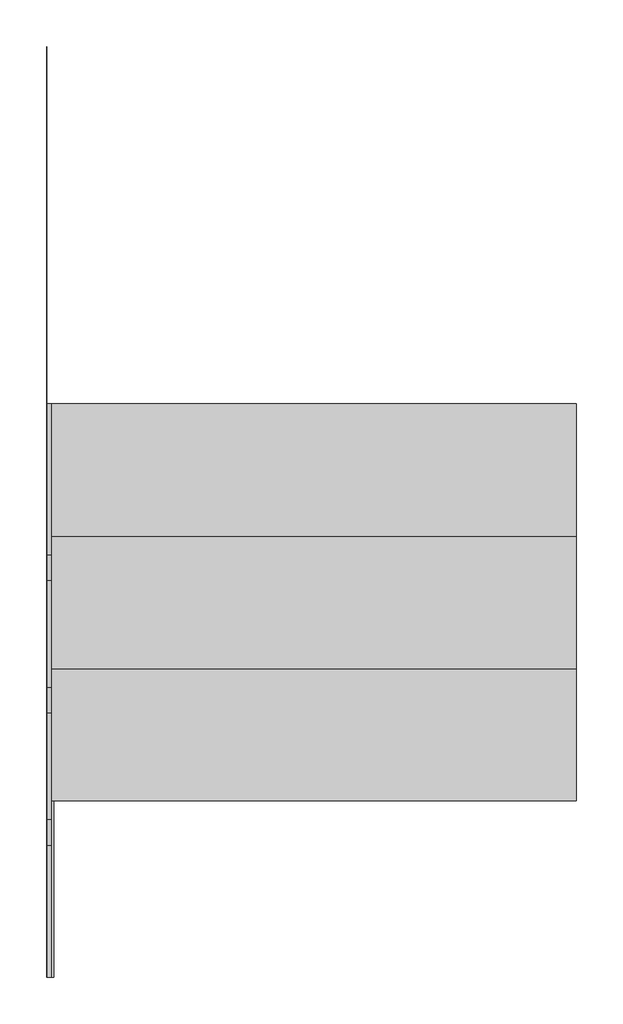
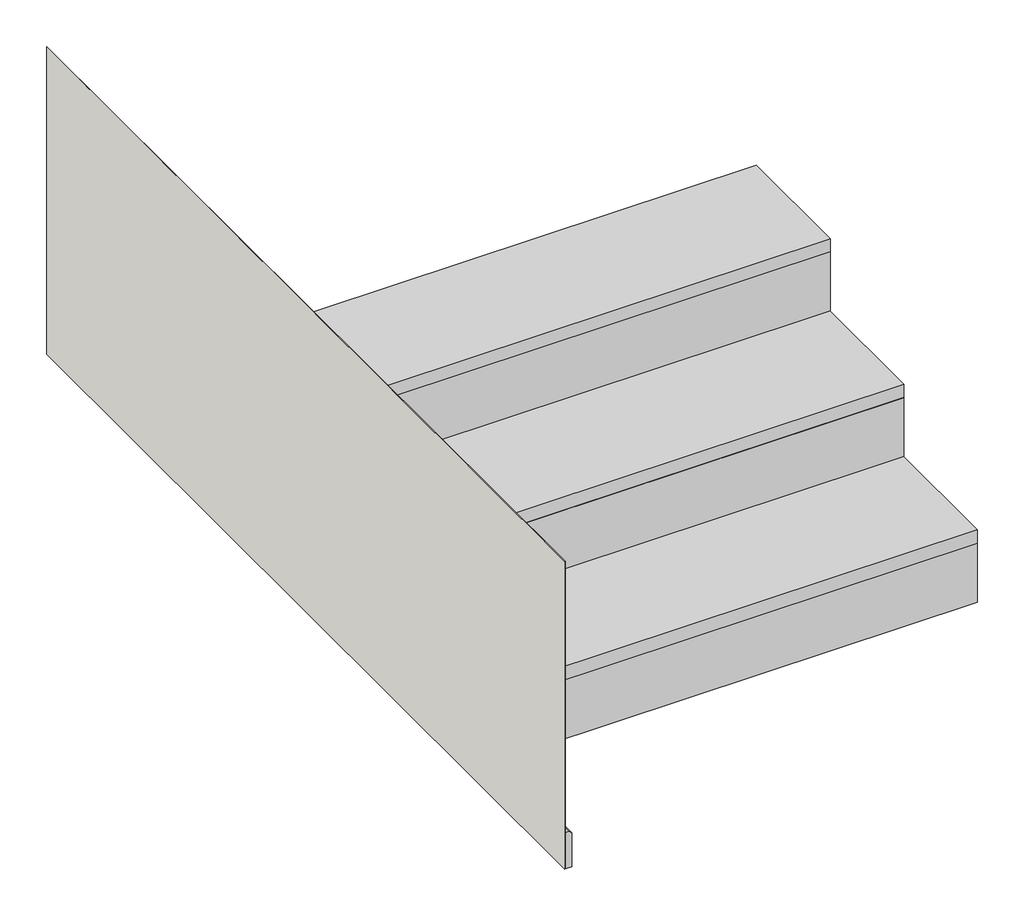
# One storey: 4 proxies, 1 stair flight, 1 wall.
"""IFC4 building model written with IfcOpenShell, lengths in millimetres."""

from ifc_helpers import new_model, si_unit, frame, origin, place, context, project, spatial, polyline, outline, extrude, faceted_brep, transform, mapped, element, save
from components import generic_models_5bab8272

model = new_model("IFC4")

# Units and contexts
model_context = context("Model", 3, world=origin())
ifc_project = project(units=[si_unit("LENGTHUNIT", "METRE", prefix="MILLI")], contexts=[model_context])

# Site, building, storey
site = spatial("IfcSite", under=ifc_project)
building = spatial("IfcBuilding", under=site)
storey = spatial("IfcBuildingStorey", under=building, Name="- EXAGRES_Catalogo ESCALERAS", Elevation=10000.0)

# Proxies
placement = place(None, origin())
element("IfcBuildingElementProxy", 1, Name="Exagres_Milan_Arena_Rodapie_9x60", ObjectType="Exagres_Milan_Arena_Rodapie_9x60", at=placement, inside=storey, context=model_context, shape_type="SweptSolid", body=[
    extrude(outline(polyline([(10090.0, -451.9029047), (10000.0, -451.9029047), (10000.0, -436.9029047), (10085.0, -436.9029047), (10090.0, -441.9029047), (10090.0, -451.9029047)])), frame((0.0, -15678.6587674, 0.0), z_axis=(0.0, 1.0, 0.0), x_axis=(0.0, 0.0, 1.0)), (0.0, 0.0, 1.0), 400.0),
])
generic_models_shape = generic_models_5bab8272(model_context)
element("IfcBuildingElementProxy", 2, Name="Zanquin Recto 42.3x17.5 : Exagres_Milan_Arena_Zanquin_Rect_Izq", ObjectType="Zanquin Recto 42.3x17.5 : Exagres_Milan_Arena_Zanquin_Rect_Izq", at=placement, inside=storey, context=model_context, shape_type="MappedRepresentation", body=[
    mapped(generic_models_shape, transform((-451.9029047, -15278.6587674, 10180.0), x_axis=(0.0, 1.0, 0.0), y_axis=(0.0, 0.0, 1.0), z_axis=(1.0, 0.0, 0.0))),
])
element("IfcBuildingElementProxy", 3, Name="Zanquin Recto 42.3x17.5 : Exagres_Milan_Arena_Zanquin_Rect_Izq", ObjectType="Zanquin Recto 42.3x17.5 : Exagres_Milan_Arena_Zanquin_Rect_Izq", at=placement, inside=storey, context=model_context, shape_type="MappedRepresentation", body=[
    mapped(generic_models_shape, transform((-451.9029047, -14978.6587674, 10360.0), x_axis=(0.0, 1.0, 0.0), y_axis=(0.0, 0.0, 1.0), z_axis=(1.0, 0.0, 0.0))),
])
element("IfcBuildingElementProxy", 4, Name="Zanquin Recto 42.3x17.5 : Exagres_Milan_Arena_Zanquin_Rect_Izq", ObjectType="Zanquin Recto 42.3x17.5 : Exagres_Milan_Arena_Zanquin_Rect_Izq", at=placement, inside=storey, context=model_context, shape_type="MappedRepresentation", body=[
    mapped(generic_models_shape, transform((-451.9029047, -14678.6587674, 10540.0), x_axis=(0.0, 1.0, 0.0), y_axis=(0.0, 0.0, 1.0), z_axis=(1.0, 0.0, 0.0))),
])

# Stair flight
element("IfcStairFlight", 5, ObjectType="EXAGRES_Recto - Milán Arena C3", at=placement, inside=storey, context=model_context, shape_type="SolidModel", body=[
    faceted_brep([(-451.9029047, -14963.6587674, 10165.0), (-451.9029047, -15263.6587674, 10165.0), (748.0970953, -15263.6587674, 10165.0), (748.0970953, -14963.6587674, 10165.0), (-451.9029047, -14963.6587674, 10000.0), (-451.9029047, -15263.6587674, 10000.0), (748.0970953, -15263.6587674, 10000.0), (748.0970953, -14963.6587674, 10000.0), (-451.9029047, -14663.6587674, 10345.0), (-451.9029047, -14963.6587674, 10345.0), (748.0970953, -14963.6587674, 10345.0), (748.0970953, -14663.6587674, 10345.0), (-451.9029047, -14663.6587674, 10158.4095394), (-451.9029047, -14927.6746663, 10000.0), (748.0970953, -14927.6746663, 10000.0), (748.0970953, -14663.6587674, 10158.4095394), (-451.9029047, -14378.6587674, 10329.4095394), (748.0970953, -14378.6587674, 10329.4095394), (-451.9029047, -14378.6587674, 10525.0), (-451.9029047, -14663.6587674, 10525.0), (748.0970953, -14663.6587674, 10525.0), (748.0970953, -14378.6587674, 10525.0)], [[[0, 1, 2, 3]], [[1, 0, 4, 5]], [[2, 1, 5, 6]], [[3, 2, 6, 7]], [[8, 9, 10, 11]], [[4, 0, 9, 8, 12, 13]], [[0, 3, 10, 9]], [[3, 7, 14, 15, 11, 10]], [[5, 4, 13, 14, 7, 6]], [[14, 13, 12, 16, 17, 15]], [[18, 19, 20, 21]], [[19, 18, 16, 12, 8]], [[8, 11, 20, 19]], [[21, 20, 11, 15, 17]], [[18, 21, 17, 16]]]),
    extrude(outline(polyline([(-14963.6587674, 10165.0), (-15260.7492185, 10165.0), (-15260.7492185, 10168.0), (-15265.6587674, 10168.0), (-15265.6587674, 10161.0), (-15266.6587674, 10161.0), (-15266.6587674, 10155.0), (-15265.6587674, 10155.0), (-15265.6587674, 10147.0), (-15278.6587674, 10147.0), (-15278.6587674, 10180.0), (-14963.6587674, 10180.0), (-14963.6587674, 10165.0)])), frame((-451.9029047, 0.0, 0.0), z_axis=(1.0, 0.0, 0.0), x_axis=(0.0, 1.0, 0.0)), (0.0, 0.0, 1.0), 1200.0),
    extrude(outline(polyline([(748.0970953, -15263.6587674), (748.0970953, -15278.6587674), (-451.9029047, -15278.6587674), (-451.9029047, -15263.6587674), (748.0970953, -15263.6587674)])), frame((0.0, 0.0, 10000.0), z_axis=(0.0, 0.0, 1.0), x_axis=(1.0, 0.0, 0.0)), (0.0, 0.0, 1.0), 147.0),
    extrude(outline(polyline([(748.0970953, -14963.6587674), (748.0970953, -14978.6587674), (-451.9029047, -14978.6587674), (-451.9029047, -14963.6587674), (748.0970953, -14963.6587674)])), frame((0.0, 0.0, 10180.0), z_axis=(0.0, 0.0, 1.0), x_axis=(1.0, 0.0, 0.0)), (0.0, 0.0, 1.0), 147.0),
    extrude(outline(polyline([(-14663.6587674, 10345.0), (-14960.7492185, 10345.0), (-14960.7492185, 10348.0), (-14965.6587674, 10348.0), (-14965.6587674, 10341.0), (-14966.6587674, 10341.0), (-14966.6587674, 10335.0), (-14965.6587674, 10335.0), (-14965.6587674, 10327.0), (-14978.6587674, 10327.0), (-14978.6587674, 10360.0), (-14663.6587674, 10360.0), (-14663.6587674, 10345.0)])), frame((-451.9029047, 0.0, 0.0), z_axis=(1.0, 0.0, 0.0), x_axis=(0.0, 1.0, 0.0)), (0.0, 0.0, 1.0), 1200.0),
    extrude(outline(polyline([(748.0970953, -14663.6587674), (748.0970953, -14678.6587674), (-451.9029047, -14678.6587674), (-451.9029047, -14663.6587674), (748.0970953, -14663.6587674)])), frame((0.0, 0.0, 10360.0), z_axis=(0.0, 0.0, 1.0), x_axis=(1.0, 0.0, 0.0)), (0.0, 0.0, 1.0), 147.0),
    extrude(outline(polyline([(-14378.6587674, 10525.0), (-14660.7492185, 10525.0), (-14660.7492185, 10528.0), (-14665.6587674, 10528.0), (-14665.6587674, 10521.0), (-14666.6587674, 10521.0), (-14666.6587674, 10515.0), (-14665.6587674, 10515.0), (-14665.6587674, 10507.0), (-14678.6587674, 10507.0), (-14678.6587674, 10540.0), (-14378.6587674, 10540.0), (-14378.6587674, 10525.0)])), frame((-451.9029047, 0.0, 0.0), z_axis=(1.0, 0.0, 0.0), x_axis=(0.0, 1.0, 0.0)), (0.0, 0.0, 1.0), 1200.0),
])

# Wall
element("IfcWall", 6, ObjectType="Muro básico:muro", at=placement, inside=storey, context=model_context, shape_type="SweptSolid", body=[
    extrude(outline(polyline([(-452.9029047, -15678.6587674), (-452.9029047, -13568.6587674), (-451.9029047, -13568.6587674), (-451.9029047, -15678.6587674), (-452.9029047, -15678.6587674)])), frame((0.0, 0.0, 10000.0), z_axis=(0.0, 0.0, 1.0), x_axis=(1.0, 0.0, 0.0)), (0.0, 0.0, 1.0), 764.3585777),
])

save(model, "model.ifc")
